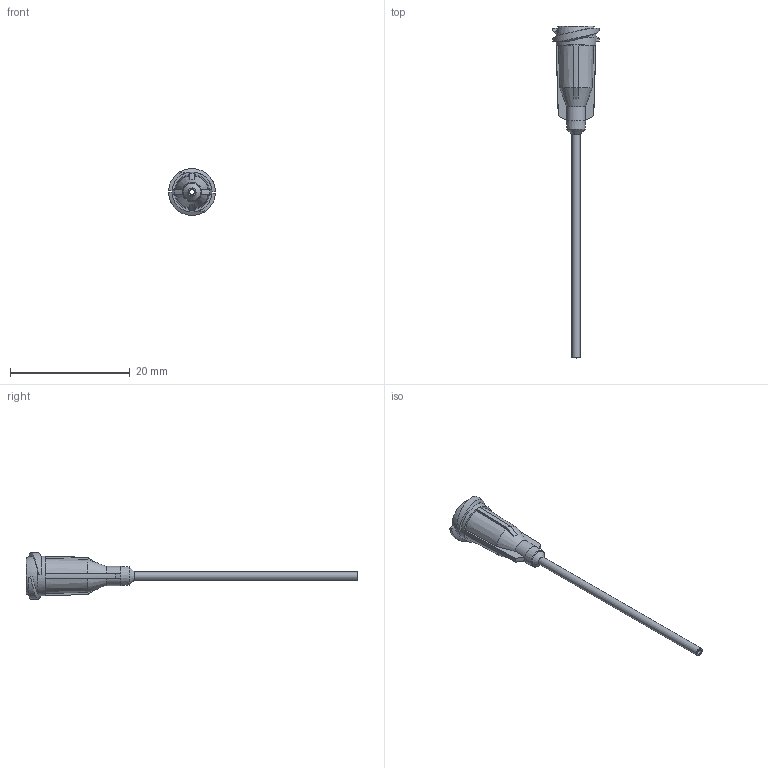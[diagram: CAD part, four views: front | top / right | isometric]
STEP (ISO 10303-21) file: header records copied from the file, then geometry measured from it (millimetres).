
FILE_DESCRIPTION (( 'STEP AP214' ), '1' );
FILE_NAME ('DAV PP 18 15.STEP', '2023-09-28T15:14:08', ( '' ), ( '' ), 'SwSTEP 2.0', 'SolidWorks 2022', '' );
FILE_SCHEMA (( 'AUTOMOTIVE_DESIGN' ));
Length unit declared in the file: millimetre
Products named in the file (1): DAV PP 18 15
Bounding box: 7.82 x 55.47 x 7.82 mm (x, y, z)
Volume: 294 mm3; surface area: 797.3 mm2
Topology: 1 solids, 1 shells, 63 faces, 161 edges, 101 vertices
Faces by surface type: plane 23, cone 16, bspline 10, cylinder 7, torus 7
Full cylindrical faces by diameter (mm): 0.84 x1, 1.35 x1, 2.87 x1, 6.655 x1
Entity records: 2066 total; most frequent: CARTESIAN_POINT 796, ORIENTED_EDGE 262, DIRECTION 228, EDGE_CURVE 131, AXIS2_PLACEMENT_3D 99, VERTEX_POINT 89, EDGE_LOOP 80, FACE_OUTER_BOUND 71
